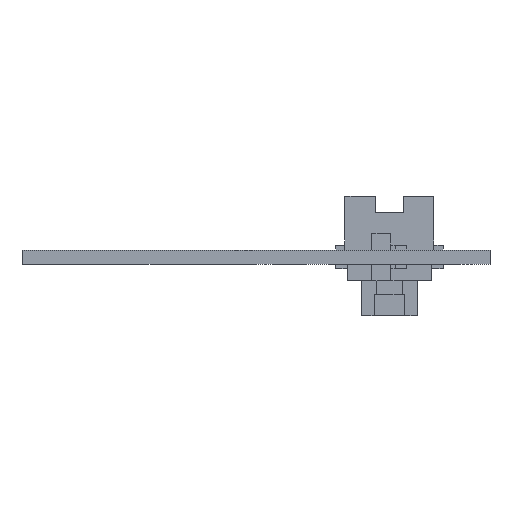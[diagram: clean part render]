
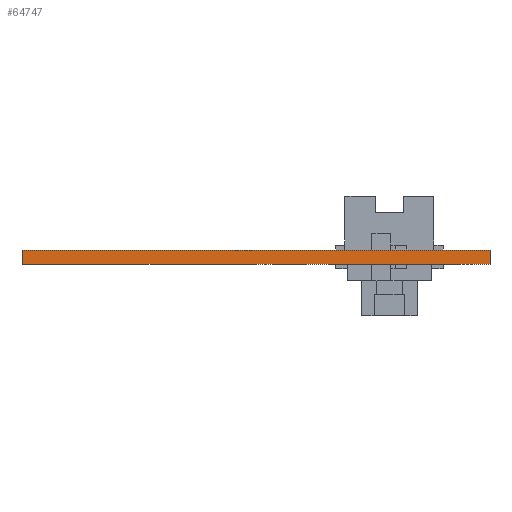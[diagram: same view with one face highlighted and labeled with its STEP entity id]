
A CAD part, left-side view. The second image highlights one B-rep face of the part: STEP entity #64747.
In plain terms, the highlighted planar face has unit normal (-1, 0, 0).
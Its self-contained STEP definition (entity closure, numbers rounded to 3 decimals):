
#64631 = EDGE_CURVE('',#64632,#64634,#64636,.T.);
#64632 = VERTEX_POINT('',#64633);
#64633 = CARTESIAN_POINT('',(10.,30.,0.));
#64634 = VERTEX_POINT('',#64635);
#64635 = CARTESIAN_POINT('',(10.,30.,0.6));
#64636 = SURFACE_CURVE('',#64637,(#64641,#64653),.PCURVE_S1.);
#64637 = LINE('',#64638,#64639);
#64638 = CARTESIAN_POINT('',(10.,30.,0.));
#64639 = VECTOR('',#64640,1.);
#64640 = DIRECTION('',(0.,0.,1.));
#64641 = PCURVE('',#64642,#64647);
#64642 = PLANE('',#64643);
#64643 = AXIS2_PLACEMENT_3D('',#64644,#64645,#64646);
#64644 = CARTESIAN_POINT('',(10.,30.,0.));
#64645 = DIRECTION('',(0.,1.,0.));
#64646 = DIRECTION('',(1.,0.,0.));
#64647 = DEFINITIONAL_REPRESENTATION('',(#64648),#64652);
#64648 = LINE('',#64649,#64650);
#64649 = CARTESIAN_POINT('',(0.,0.));
#64650 = VECTOR('',#64651,1.);
#64651 = DIRECTION('',(0.,-1.));
#64652 = ( GEOMETRIC_REPRESENTATION_CONTEXT(2) 
PARAMETRIC_REPRESENTATION_CONTEXT() REPRESENTATION_CONTEXT('2D SPACE',''
  ) );
#64653 = PCURVE('',#64654,#64659);
#64654 = PLANE('',#64655);
#64655 = AXIS2_PLACEMENT_3D('',#64656,#64657,#64658);
#64656 = CARTESIAN_POINT('',(10.,10.,0.));
#64657 = DIRECTION('',(-1.,0.,0.));
#64658 = DIRECTION('',(0.,1.,0.));
#64659 = DEFINITIONAL_REPRESENTATION('',(#64660),#64664);
#64660 = LINE('',#64661,#64662);
#64661 = CARTESIAN_POINT('',(20.,0.));
#64662 = VECTOR('',#64663,1.);
#64663 = DIRECTION('',(0.,-1.));
#64664 = ( GEOMETRIC_REPRESENTATION_CONTEXT(2) 
PARAMETRIC_REPRESENTATION_CONTEXT() REPRESENTATION_CONTEXT('2D SPACE',''
  ) );
#64682 = PLANE('',#64683);
#64683 = AXIS2_PLACEMENT_3D('',#64684,#64685,#64686);
#64684 = CARTESIAN_POINT('',(20.,20.,0.6));
#64685 = DIRECTION('',(-0.,-0.,-1.));
#64686 = DIRECTION('',(-1.,0.,0.));
#64736 = PLANE('',#64737);
#64737 = AXIS2_PLACEMENT_3D('',#64738,#64739,#64740);
#64738 = CARTESIAN_POINT('',(20.,20.,0.));
#64739 = DIRECTION('',(-0.,-0.,-1.));
#64740 = DIRECTION('',(-1.,0.,0.));
#64747 = ADVANCED_FACE('',(#64748),#64654,.T.);
#64748 = FACE_BOUND('',#64749,.T.);
#64749 = EDGE_LOOP('',(#64750,#64780,#64801,#64802));
#64750 = ORIENTED_EDGE('',*,*,#64751,.T.);
#64751 = EDGE_CURVE('',#64752,#64754,#64756,.T.);
#64752 = VERTEX_POINT('',#64753);
#64753 = CARTESIAN_POINT('',(10.,10.,0.));
#64754 = VERTEX_POINT('',#64755);
#64755 = CARTESIAN_POINT('',(10.,10.,0.6));
#64756 = SURFACE_CURVE('',#64757,(#64761,#64768),.PCURVE_S1.);
#64757 = LINE('',#64758,#64759);
#64758 = CARTESIAN_POINT('',(10.,10.,0.));
#64759 = VECTOR('',#64760,1.);
#64760 = DIRECTION('',(0.,0.,1.));
#64761 = PCURVE('',#64654,#64762);
#64762 = DEFINITIONAL_REPRESENTATION('',(#64763),#64767);
#64763 = LINE('',#64764,#64765);
#64764 = CARTESIAN_POINT('',(0.,0.));
#64765 = VECTOR('',#64766,1.);
#64766 = DIRECTION('',(0.,-1.));
#64767 = ( GEOMETRIC_REPRESENTATION_CONTEXT(2) 
PARAMETRIC_REPRESENTATION_CONTEXT() REPRESENTATION_CONTEXT('2D SPACE',''
  ) );
#64768 = PCURVE('',#64769,#64774);
#64769 = PLANE('',#64770);
#64770 = AXIS2_PLACEMENT_3D('',#64771,#64772,#64773);
#64771 = CARTESIAN_POINT('',(30.,10.,0.));
#64772 = DIRECTION('',(0.,-1.,0.));
#64773 = DIRECTION('',(-1.,0.,0.));
#64774 = DEFINITIONAL_REPRESENTATION('',(#64775),#64779);
#64775 = LINE('',#64776,#64777);
#64776 = CARTESIAN_POINT('',(20.,0.));
#64777 = VECTOR('',#64778,1.);
#64778 = DIRECTION('',(0.,-1.));
#64779 = ( GEOMETRIC_REPRESENTATION_CONTEXT(2) 
PARAMETRIC_REPRESENTATION_CONTEXT() REPRESENTATION_CONTEXT('2D SPACE',''
  ) );
#64780 = ORIENTED_EDGE('',*,*,#64781,.T.);
#64781 = EDGE_CURVE('',#64754,#64634,#64782,.T.);
#64782 = SURFACE_CURVE('',#64783,(#64787,#64794),.PCURVE_S1.);
#64783 = LINE('',#64784,#64785);
#64784 = CARTESIAN_POINT('',(10.,10.,0.6));
#64785 = VECTOR('',#64786,1.);
#64786 = DIRECTION('',(0.,1.,0.));
#64787 = PCURVE('',#64654,#64788);
#64788 = DEFINITIONAL_REPRESENTATION('',(#64789),#64793);
#64789 = LINE('',#64790,#64791);
#64790 = CARTESIAN_POINT('',(0.,-0.6));
#64791 = VECTOR('',#64792,1.);
#64792 = DIRECTION('',(1.,0.));
#64793 = ( GEOMETRIC_REPRESENTATION_CONTEXT(2) 
PARAMETRIC_REPRESENTATION_CONTEXT() REPRESENTATION_CONTEXT('2D SPACE',''
  ) );
#64794 = PCURVE('',#64682,#64795);
#64795 = DEFINITIONAL_REPRESENTATION('',(#64796),#64800);
#64796 = LINE('',#64797,#64798);
#64797 = CARTESIAN_POINT('',(10.,-10.));
#64798 = VECTOR('',#64799,1.);
#64799 = DIRECTION('',(0.,1.));
#64800 = ( GEOMETRIC_REPRESENTATION_CONTEXT(2) 
PARAMETRIC_REPRESENTATION_CONTEXT() REPRESENTATION_CONTEXT('2D SPACE',''
  ) );
#64801 = ORIENTED_EDGE('',*,*,#64631,.F.);
#64802 = ORIENTED_EDGE('',*,*,#64803,.F.);
#64803 = EDGE_CURVE('',#64752,#64632,#64804,.T.);
#64804 = SURFACE_CURVE('',#64805,(#64809,#64816),.PCURVE_S1.);
#64805 = LINE('',#64806,#64807);
#64806 = CARTESIAN_POINT('',(10.,10.,0.));
#64807 = VECTOR('',#64808,1.);
#64808 = DIRECTION('',(0.,1.,0.));
#64809 = PCURVE('',#64654,#64810);
#64810 = DEFINITIONAL_REPRESENTATION('',(#64811),#64815);
#64811 = LINE('',#64812,#64813);
#64812 = CARTESIAN_POINT('',(0.,0.));
#64813 = VECTOR('',#64814,1.);
#64814 = DIRECTION('',(1.,0.));
#64815 = ( GEOMETRIC_REPRESENTATION_CONTEXT(2) 
PARAMETRIC_REPRESENTATION_CONTEXT() REPRESENTATION_CONTEXT('2D SPACE',''
  ) );
#64816 = PCURVE('',#64736,#64817);
#64817 = DEFINITIONAL_REPRESENTATION('',(#64818),#64822);
#64818 = LINE('',#64819,#64820);
#64819 = CARTESIAN_POINT('',(10.,-10.));
#64820 = VECTOR('',#64821,1.);
#64821 = DIRECTION('',(0.,1.));
#64822 = ( GEOMETRIC_REPRESENTATION_CONTEXT(2) 
PARAMETRIC_REPRESENTATION_CONTEXT() REPRESENTATION_CONTEXT('2D SPACE',''
  ) );
